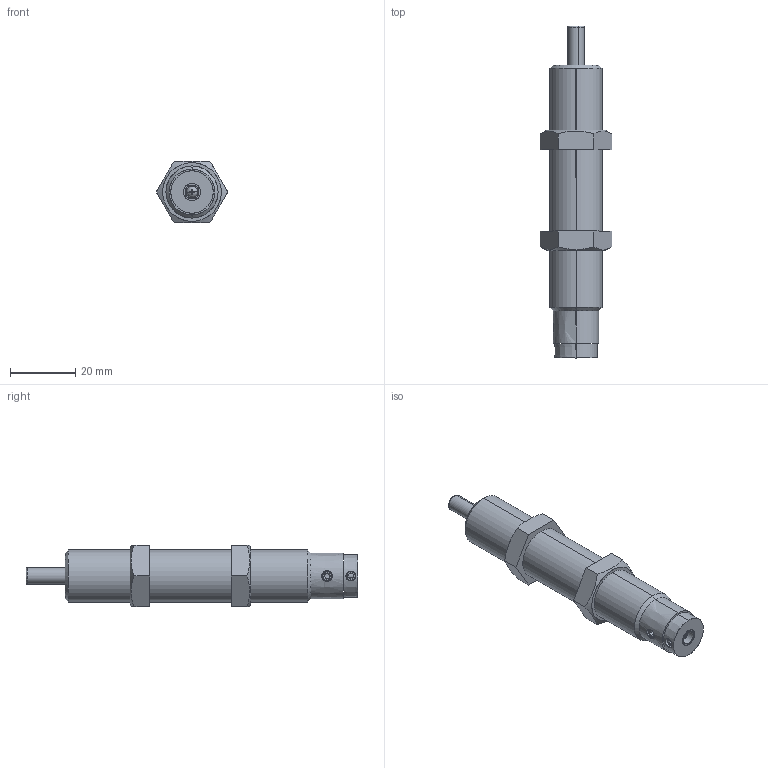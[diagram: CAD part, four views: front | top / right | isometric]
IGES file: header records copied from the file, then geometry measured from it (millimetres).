
Start section: SolidWorks IGES file using analytic representation for surfaces
Bounding box: 21.94 x 102 x 19 mm (x, y, z)
Surface area: 7118.3 mm2 (no closed solid volume)
Topology: 0 solids, 0 shells, 114 faces, 1586 edges, 1586 vertices
Faces by surface type: bspline 60, revolution 54
